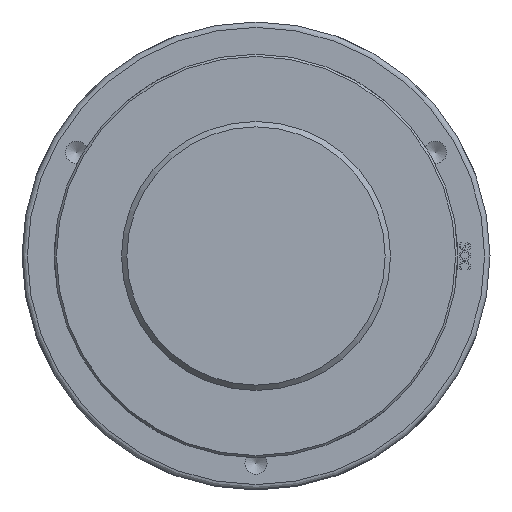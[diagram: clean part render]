
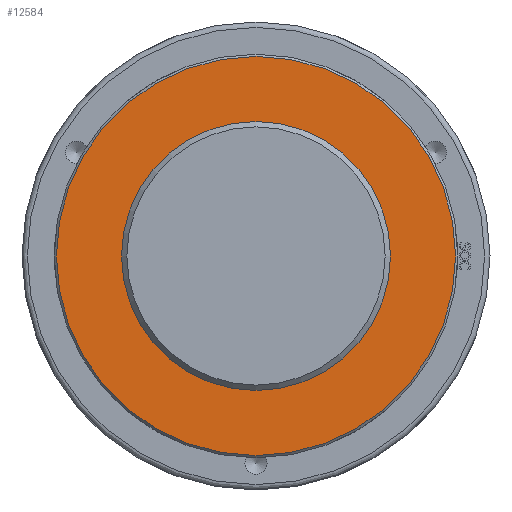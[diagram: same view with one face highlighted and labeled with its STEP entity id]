
A CAD part, front view. The second image highlights one B-rep face of the part: STEP entity #12584.
In plain terms, the highlighted planar face has unit normal (0, -1, 0) as drawn and (0, 1, 0) by its records, which use the part's own axes.
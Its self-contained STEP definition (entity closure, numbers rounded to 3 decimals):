
#90=CIRCLE('',#13239,185.5);
#92=CIRCLE('',#13243,120.67);
#167=FACE_BOUND('',#2321,.T.);
#1572=FACE_OUTER_BOUND('',#2320,.T.);
#2320=EDGE_LOOP('',(#9972));
#2321=EDGE_LOOP('',(#9973));
#5640=VERTEX_POINT('',#19198);
#5654=VERTEX_POINT('',#19438);
#7201=EDGE_CURVE('',#5640,#5640,#90,.T.);
#7215=EDGE_CURVE('',#5654,#5654,#92,.T.);
#9972=ORIENTED_EDGE('',*,*,#7201,.F.);
#9973=ORIENTED_EDGE('',*,*,#7215,.T.);
#12099=PLANE('',#13242);
#12584=ADVANCED_FACE('',(#1572,#167),#12099,.T.);
#13239=AXIS2_PLACEMENT_3D('',#19199,#14450,#14451);
#13242=AXIS2_PLACEMENT_3D('',#19437,#14456,#14457);
#13243=AXIS2_PLACEMENT_3D('',#19439,#14458,#14459);
#14450=DIRECTION('center_axis',(0.,-1.,0.));
#14451=DIRECTION('ref_axis',(1.,0.,0.));
#14456=DIRECTION('center_axis',(0.,1.,0.));
#14457=DIRECTION('ref_axis',(0.,0.,1.));
#14458=DIRECTION('center_axis',(0.,-1.,0.));
#14459=DIRECTION('ref_axis',(1.,0.,0.));
#19198=CARTESIAN_POINT('',(-185.5,125.,0.));
#19199=CARTESIAN_POINT('Origin',(0.,125.,0.));
#19437=CARTESIAN_POINT('Origin',(0.,125.,0.));
#19438=CARTESIAN_POINT('',(-120.67,125.,0.));
#19439=CARTESIAN_POINT('Origin',(0.,125.,0.));
